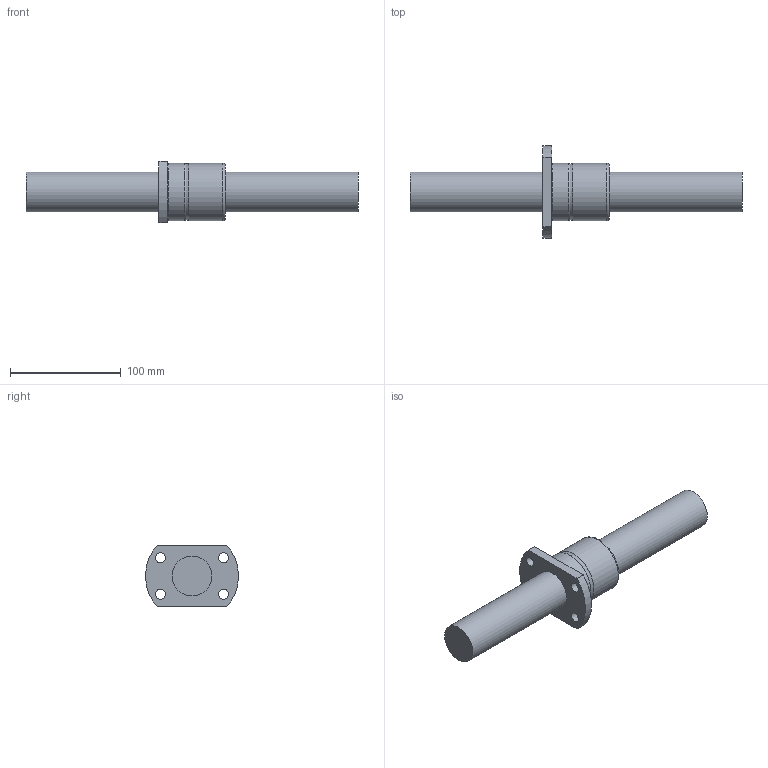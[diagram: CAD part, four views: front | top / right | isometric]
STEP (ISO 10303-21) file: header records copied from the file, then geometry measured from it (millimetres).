
FILE_DESCRIPTION((''),'2;1');
FILE_NAME('D:\製品 (図面)\カタログ用3D\ネジ関連\STEP形式\TMK-OH\TMK36-OH.stp','2010-06-02T15:29:58',('Tsuchiya'),(''),'Autodesk Inventor 10','Autodesk Inventor 10','');
FILE_SCHEMA(('AUTOMOTIVE_DESIGN { 1 0 10303 214 1 1 1 1 }'));
Length unit declared in the file: millimetre
Products named in the file (3): TMK36-OH; TMK36-OH1; TMK36-OH2
Assembly tree (2 placements, depth 2):
  TMK36-OH
    TMK36-OH1
    TMK36-OH2
Bounding box: 300 x 83.72 x 56 mm (x, y, z)
Volume: 386827.4 mm3; surface area: 60164.2 mm2
Topology: 2 solids, 2 shells, 21 faces, 49 edges, 33 vertices
Faces by surface type: cylinder 7, plane 7, bspline 6, torus 1
Full cylindrical faces by diameter (mm): 3 x1, 36 x2, 52 x2
Entity records: 872 total; most frequent: CARTESIAN_POINT 378, DIRECTION 92, ORIENTED_EDGE 64, EDGE_LOOP 46, AXIS2_PLACEMENT_3D 42, EDGE_CURVE 32, VERTEX_POINT 28, FACE_BOUND 25
